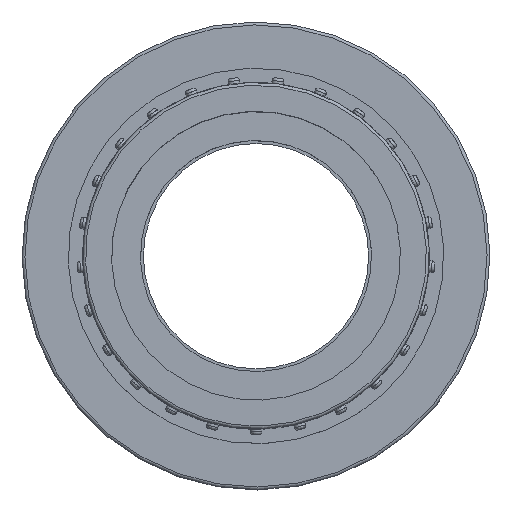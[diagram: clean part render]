
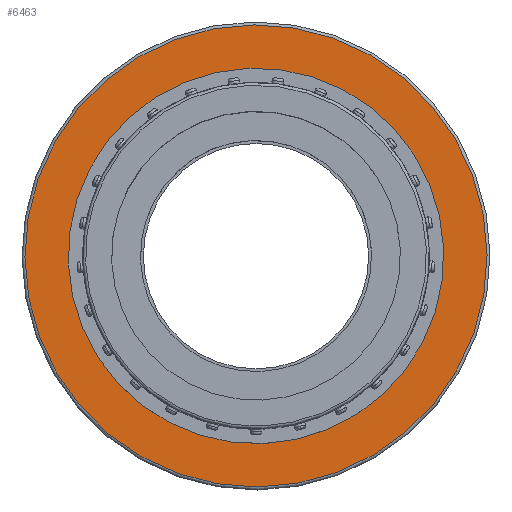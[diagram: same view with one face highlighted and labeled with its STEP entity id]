
A CAD part, top view. The second image highlights one B-rep face of the part: STEP entity #6463.
In plain terms, the highlighted planar face has unit normal (0, 0, 1).
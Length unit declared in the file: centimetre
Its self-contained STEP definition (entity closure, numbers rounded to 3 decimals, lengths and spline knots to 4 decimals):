
#1270=FACE_BOUND('',#1652,.T.);
#1298=FACE_OUTER_BOUND('',#1651,.T.);
#1651=EDGE_LOOP('',(#4040));
#1652=EDGE_LOOP('',(#4041));
#2032=CIRCLE('',#6821,4.);
#2033=CIRCLE('',#6822,3.25);
#2413=VERTEX_POINT('',#9196);
#2414=VERTEX_POINT('',#9198);
#3064=EDGE_CURVE('',#2413,#2413,#2032,.T.);
#3065=EDGE_CURVE('',#2414,#2414,#2033,.T.);
#4040=ORIENTED_EDGE('',*,*,#3064,.F.);
#4041=ORIENTED_EDGE('',*,*,#3065,.F.);
#5992=PLANE('',#6820);
#6463=ADVANCED_FACE('',(#1298,#1270),#5992,.T.);
#6820=AXIS2_PLACEMENT_3D('',#9195,#7471,#7472);
#6821=AXIS2_PLACEMENT_3D('',#9197,#7473,#7474);
#6822=AXIS2_PLACEMENT_3D('',#9199,#7475,#7476);
#7471=DIRECTION('center_axis',(0.,0.,
1.));
#7472=DIRECTION('ref_axis',(-0.493,-0.87,0.));
#7473=DIRECTION('center_axis',(0.,0.,
-1.));
#7474=DIRECTION('ref_axis',(0.87,-0.493,0.));
#7475=DIRECTION('center_axis',(0.,0.,
1.));
#7476=DIRECTION('ref_axis',(0.537,-0.844,0.));
#9195=CARTESIAN_POINT('Origin',(-3.5225,1.9986,1.95));
#9196=CARTESIAN_POINT('',(-3.479,1.9739,1.95));
#9197=CARTESIAN_POINT('Origin',(0.,0.,
1.95));
#9198=CARTESIAN_POINT('',(-1.7441,2.7424,1.95));
#9199=CARTESIAN_POINT('Origin',(0.,0.,
1.95));
